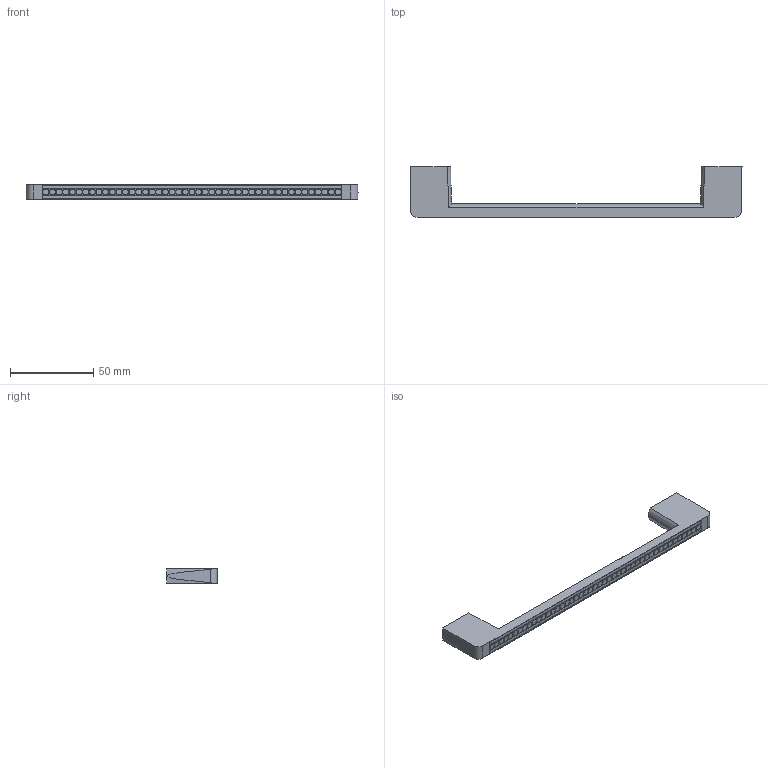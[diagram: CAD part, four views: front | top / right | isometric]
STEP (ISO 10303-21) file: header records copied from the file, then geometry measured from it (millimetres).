
FILE_DESCRIPTION( ( '' ), '1' );
FILE_NAME( 'D:/1.AUTOCAD EXPORT/Group 10/sheet_10_1/9113677.stp', '2013-10-18T05:43:23', ( '' ), ( '' ), ' ', ' ', ' ' );
FILE_SCHEMA( ( 'automotive_design' ) );
Length unit declared in the file: millimetre
Products named in the file (1): 1
Bounding box: 200 x 30.4 x 9 mm (x, y, z)
Volume: 22199.3 mm3; surface area: 11456.2 mm2
Topology: 1 solids, 1 shells, 706 faces, 2198 edges, 1361 vertices
Faces by surface type: cone 272, plane 243, torus 180, cylinder 11
Entity records: 47055 total; most frequent: CARTESIAN_POINT 4566, DIRECTION 4332, ORIENTED_EDGE 4216, STYLED_ITEM 4176, PRESENTATION_STYLE_ASSIGNMENT 4176, COLOUR_RGB 4176, EDGE_CURVE 2108, CURVE_STYLE 2108
